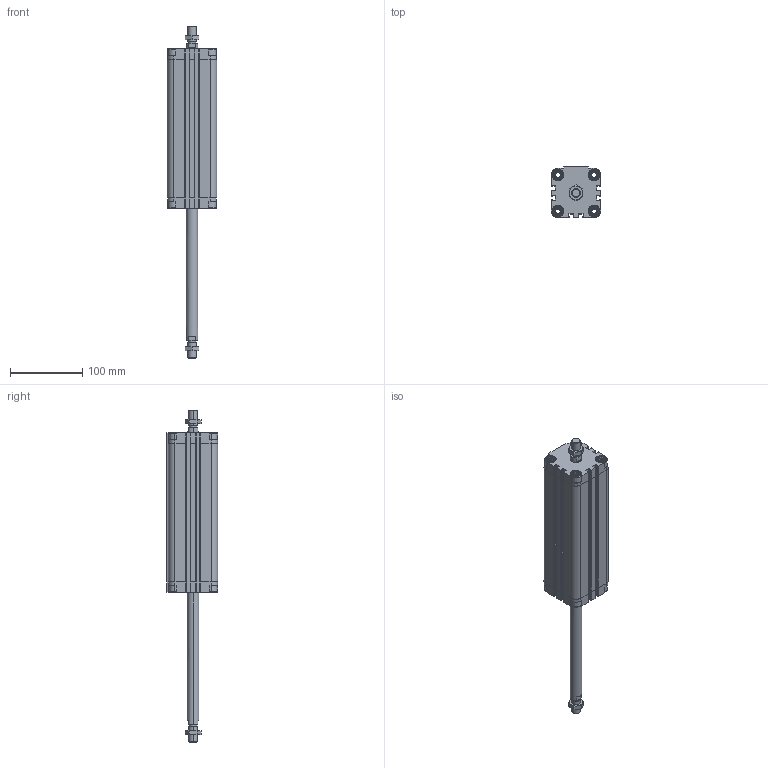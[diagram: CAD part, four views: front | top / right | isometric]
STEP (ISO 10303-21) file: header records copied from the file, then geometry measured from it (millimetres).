
FILE_DESCRIPTION (( 'STEP AP203' ), '1' );
FILE_NAME ('CDVU50-175M-P.STEP', '2020-07-21T15:20:45', ( '' ), ( '' ), 'SwSTEP 2.0', 'SolidWorks 2019', '' );
FILE_SCHEMA (( 'CONFIG_CONTROL_DESIGN' ));
Length unit declared in the file: millimetre
Products named in the file (1): CDVU50-175M-P
Bounding box: 68 x 71 x 458.5 mm (x, y, z)
Volume: 648169.9 mm3; surface area: 176870.5 mm2
Topology: 4 solids, 4 shells, 758 faces, 2004 edges, 1290 vertices
Faces by surface type: plane 438, cylinder 240, cone 64, torus 16
Entity records: 24259 total; most frequent: CARTESIAN_POINT 5321, ORIENTED_EDGE 4000, DIRECTION 3878, EDGE_CURVE 2000, AXIS2_PLACEMENT_3D 1335, VERTEX_POINT 1290, LINE 1208, VECTOR 1208
